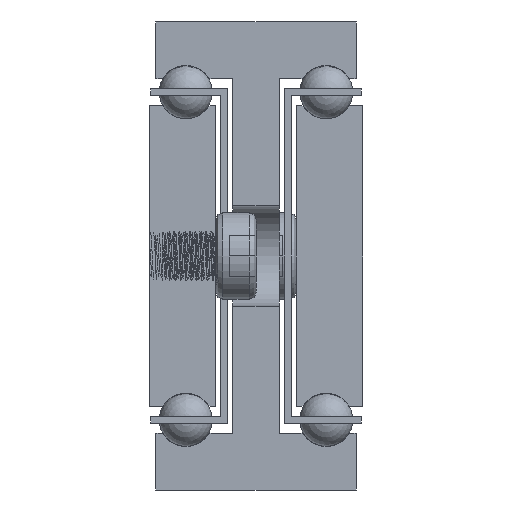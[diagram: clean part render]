
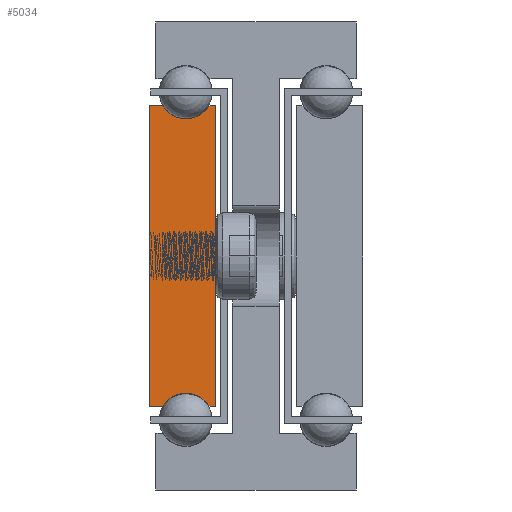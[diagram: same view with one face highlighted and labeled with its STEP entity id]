
A CAD part, front view. The second image highlights one B-rep face of the part: STEP entity #5034.
In plain terms, the highlighted planar face has unit normal (0, -1, 0).
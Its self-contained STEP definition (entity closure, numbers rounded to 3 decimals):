
#748=CIRCLE('',#5374,4.);
#750=CIRCLE('',#5380,4.);
#1088=FACE_OUTER_BOUND('',#1412,.T.);
#1412=EDGE_LOOP('',(#3966,#3967,#3968,#3969,#3970,#3971,#3972,#3973));
#1850=LINE('',#92932,#2062);
#1854=LINE('',#92940,#2066);
#1858=LINE('',#92952,#2070);
#1861=LINE('',#92958,#2073);
#1864=LINE('',#92964,#2076);
#1868=LINE('',#92975,#2080);
#2062=VECTOR('',#5952,1.);
#2066=VECTOR('',#5958,1.);
#2070=VECTOR('',#5970,1.);
#2073=VECTOR('',#5975,1.);
#2076=VECTOR('',#5980,1.);
#2080=VECTOR('',#5992,1.);
#2362=VERTEX_POINT('',#92930);
#2363=VERTEX_POINT('',#92931);
#2366=VERTEX_POINT('',#92939);
#2368=VERTEX_POINT('',#92945);
#2370=VERTEX_POINT('',#92951);
#2372=VERTEX_POINT('',#92957);
#2374=VERTEX_POINT('',#92963);
#2376=VERTEX_POINT('',#92969);
#2992=EDGE_CURVE('',#2362,#2363,#1850,.T.);
#2996=EDGE_CURVE('',#2363,#2366,#1854,.T.);
#2999=EDGE_CURVE('',#2366,#2368,#748,.T.);
#3002=EDGE_CURVE('',#2368,#2370,#1858,.T.);
#3005=EDGE_CURVE('',#2370,#2372,#1861,.T.);
#3008=EDGE_CURVE('',#2372,#2374,#1864,.T.);
#3011=EDGE_CURVE('',#2374,#2376,#750,.T.);
#3014=EDGE_CURVE('',#2376,#2362,#1868,.T.);
#3966=ORIENTED_EDGE('',*,*,#3014,.T.);
#3967=ORIENTED_EDGE('',*,*,#2992,.T.);
#3968=ORIENTED_EDGE('',*,*,#2996,.T.);
#3969=ORIENTED_EDGE('',*,*,#2999,.T.);
#3970=ORIENTED_EDGE('',*,*,#3002,.T.);
#3971=ORIENTED_EDGE('',*,*,#3005,.T.);
#3972=ORIENTED_EDGE('',*,*,#3008,.T.);
#3973=ORIENTED_EDGE('',*,*,#3011,.T.);
#4888=PLANE('',#5383);
#5034=ADVANCED_FACE('',(#1088),#4888,.F.);
#5374=AXIS2_PLACEMENT_3D('',#92946,#5963,#5964);
#5380=AXIS2_PLACEMENT_3D('',#92970,#5985,#5986);
#5383=AXIS2_PLACEMENT_3D('',#92977,#5994,#5995);
#5952=DIRECTION('',(0.,0.,-1.));
#5958=DIRECTION('',(1.,0.,0.));
#5963=DIRECTION('center_axis',(0.,1.,0.));
#5964=DIRECTION('ref_axis',(-0.866,0.,0.5));
#5970=DIRECTION('',(1.,0.,0.));
#5975=DIRECTION('',(0.,0.,1.));
#5980=DIRECTION('',(-1.,0.,0.));
#5985=DIRECTION('center_axis',(0.,1.,0.));
#5986=DIRECTION('ref_axis',(0.866,0.,-0.5));
#5992=DIRECTION('',(-1.,0.,0.));
#5994=DIRECTION('center_axis',(0.,1.,0.));
#5995=DIRECTION('ref_axis',(1.,0.,0.));
#92930=CARTESIAN_POINT('',(-1450.732,-612.353,-12.5));
#92931=CARTESIAN_POINT('',(-1450.732,-612.353,-57.5));
#92932=CARTESIAN_POINT('',(-1450.732,-612.353,-12.5));
#92939=CARTESIAN_POINT('',(-1448.696,-612.353,-57.5));
#92940=CARTESIAN_POINT('',(-1450.732,-612.353,-57.5));
#92945=CARTESIAN_POINT('',(-1441.768,-612.353,-57.5));
#92946=CARTESIAN_POINT('Origin',(-1445.232,-612.353,-59.5));
#92951=CARTESIAN_POINT('',(-1440.732,-612.353,-57.5));
#92952=CARTESIAN_POINT('',(-1441.768,-612.353,-57.5));
#92957=CARTESIAN_POINT('',(-1440.732,-612.353,-12.5));
#92958=CARTESIAN_POINT('',(-1440.732,-612.353,-57.5));
#92963=CARTESIAN_POINT('',(-1441.768,-612.353,-12.5));
#92964=CARTESIAN_POINT('',(-1440.732,-612.353,-12.5));
#92969=CARTESIAN_POINT('',(-1448.696,-612.353,-12.5));
#92970=CARTESIAN_POINT('Origin',(-1445.232,-612.353,-10.5));
#92975=CARTESIAN_POINT('',(-1448.696,-612.353,-12.5));
#92977=CARTESIAN_POINT('Origin',(-1445.738,-612.353,-35.));
